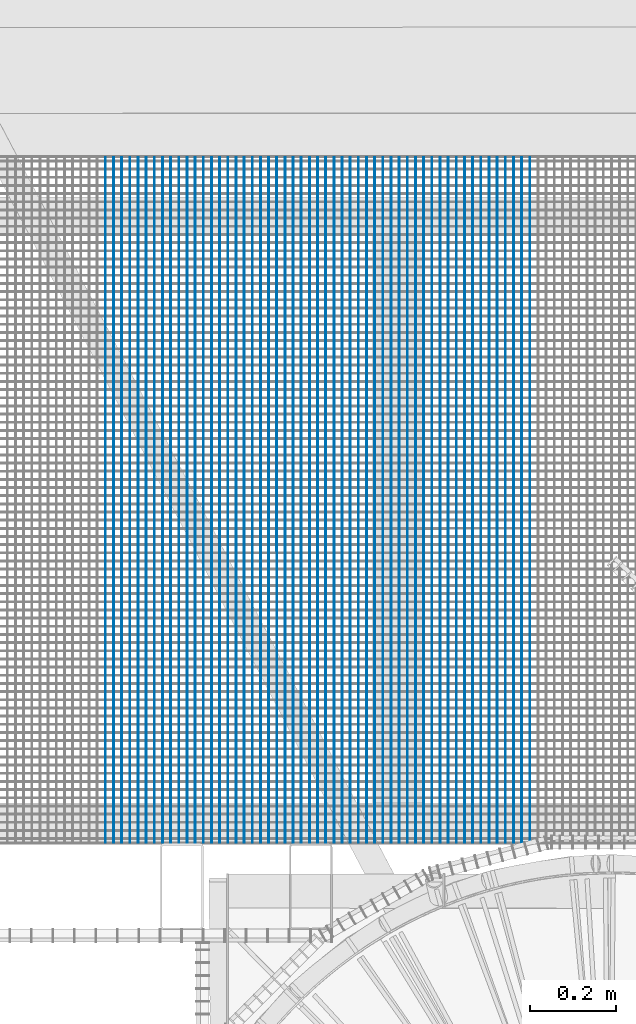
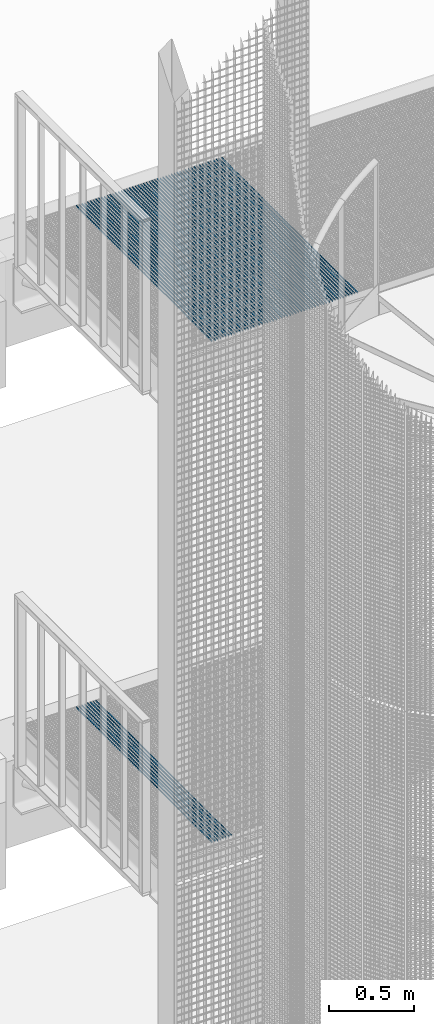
# One storey, part 94 of 1183: 61 beams, 2 elements without a shape of their own.
"""IFC2X3 building model written with IfcOpenShell, lengths in millimetres."""

from ifc_helpers import new_model, si_unit, frame, origin_with_axes, origin_2d_with_axis, place, context, subcontext, project, spatial, rectangle, extrude, material, type_object, element, aggregate, save


model = new_model("IFC2X3")

# Units and contexts
model_context = context("Model", 3, precision=1e-05, world=origin_with_axes())
body_context = subcontext(model_context, "Body", "Model", "MODEL_VIEW")
ifc_project = project(units=[si_unit("LENGTHUNIT", "METRE", prefix="MILLI"), si_unit("AREAUNIT", "SQUARE_METRE"), si_unit("VOLUMEUNIT", "CUBIC_METRE"), si_unit("MASSUNIT", "GRAM", prefix="KILO"), si_unit("TIMEUNIT", "SECOND"), si_unit("PLANEANGLEUNIT", "RADIAN"), si_unit("SOLIDANGLEUNIT", "STERADIAN"), si_unit("THERMODYNAMICTEMPERATUREUNIT", "DEGREE_CELSIUS"), si_unit("LUMINOUSINTENSITYUNIT", "LUMEN")], contexts=[model_context])

# Site, building, storey
site_placement = place(None, origin_with_axes())
site = spatial("IfcSite", under=ifc_project, at=site_placement, Name="Undefined", CompositionType="ELEMENT")
building_placement = place(site_placement, origin_with_axes())
building = spatial("IfcBuilding", under=site, at=building_placement, Name="Undefined", CompositionType="ELEMENT")
storey_placement = place(building_placement, origin_with_axes())
storey = spatial("IfcBuildingStorey", under=building, at=storey_placement, Name="Undefined", CompositionType="ELEMENT", Elevation=0.0)

# Assembly, beams
assembly_1_placement = place(storey_placement, origin_with_axes())
assembly_1 = element("IfcElementAssembly", 1, at=assembly_1_placement, inside=storey, Name="BORDURE", AssemblyPlace="NOTDEFINED", PredefinedType="NOTDEFINED")
ifc_material = material(Name="STEEL/S235JR")
beam_type = type_object("IfcBeamType", Name="PL2*10", PredefinedType="NOTDEFINED")
beam_1_placement = place(assembly_1_placement, frame((20422.1154247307, 1101.99652091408, 13685.0), z_axis=(0.0, 0.0, 1.0), x_axis=(-4.50599999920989e-06, 0.999999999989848, 0.0)))
beam_1 = element("IfcBeam", 2, at=beam_1_placement, type_object=beam_type, material=ifc_material, Name="ENTRETOISE", context=body_context, shape_type="SweptSolid", body=[
    extrude(rectangle(XDim=2.0, YDim=10.0, at=origin_2d_with_axis()), frame((1596.0000000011, -1.35186458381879e-18, -7.27595761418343e-12), z_axis=(-1.0, 0.0, 0.0), x_axis=(0.0, -1.0, 0.0)), (0.0, 0.0, 1.0), 1596.0),
])
beam_2_placement = place(assembly_1_placement, frame((20441.1154247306, 1101.99661443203, 13685.0), z_axis=(0.0, 0.0, 1.0), x_axis=(-4.50599999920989e-06, 0.999999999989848, 0.0)))
beam_2 = element("IfcBeam", 3, at=beam_2_placement, type_object=beam_type, material=ifc_material, Name="ENTRETOISE", context=body_context, shape_type="SweptSolid", body=[
    extrude(rectangle(XDim=2.0, YDim=10.0, at=origin_2d_with_axis()), frame((1596.0000000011, -1.35186458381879e-18, -7.27595761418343e-12), z_axis=(-1.0, 0.0, 0.0), x_axis=(0.0, -1.0, 0.0)), (0.0, 0.0, 1.0), 1596.0),
])
beam_3_placement = place(assembly_1_placement, frame((20460.1154247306, 1101.99670794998, 13685.0), z_axis=(0.0, 0.0, 1.0), x_axis=(-4.50599999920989e-06, 0.999999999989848, 0.0)))
beam_3 = element("IfcBeam", 4, at=beam_3_placement, type_object=beam_type, material=ifc_material, Name="ENTRETOISE", context=body_context, shape_type="SweptSolid", body=[
    extrude(rectangle(XDim=2.0, YDim=10.0, at=origin_2d_with_axis()), frame((1596.0000000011, -1.35186458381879e-18, -7.27595761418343e-12), z_axis=(-1.0, 0.0, 0.0), x_axis=(0.0, -1.0, 0.0)), (0.0, 0.0, 1.0), 1596.0),
])
beam_4_placement = place(assembly_1_placement, frame((20479.1154247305, 1101.99680146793, 13685.0), z_axis=(0.0, 0.0, 1.0), x_axis=(-4.50599999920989e-06, 0.999999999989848, 0.0)))
beam_4 = element("IfcBeam", 5, at=beam_4_placement, type_object=beam_type, material=ifc_material, Name="ENTRETOISE", context=body_context, shape_type="SweptSolid", body=[
    extrude(rectangle(XDim=2.0, YDim=10.0, at=origin_2d_with_axis()), frame((1596.0000000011, -1.35186458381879e-18, -7.27595761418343e-12), z_axis=(-1.0, 0.0, 0.0), x_axis=(0.0, -1.0, 0.0)), (0.0, 0.0, 1.0), 1596.0),
])
beam_5_placement = place(assembly_1_placement, frame((20498.1154247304, 1101.99689498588, 13685.0), z_axis=(0.0, 0.0, 1.0), x_axis=(-4.50599999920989e-06, 0.999999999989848, 0.0)))
beam_5 = element("IfcBeam", 6, at=beam_5_placement, type_object=beam_type, material=ifc_material, Name="ENTRETOISE", context=body_context, shape_type="SweptSolid", body=[
    extrude(rectangle(XDim=2.0, YDim=10.0, at=origin_2d_with_axis()), frame((1596.0000000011, -1.35186458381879e-18, -7.27595761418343e-12), z_axis=(-1.0, 0.0, 0.0), x_axis=(0.0, -1.0, 0.0)), (0.0, 0.0, 1.0), 1596.0),
])
beam_6_placement = place(assembly_1_placement, frame((20517.1154247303, 1101.99698850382, 13685.0), z_axis=(0.0, 0.0, 1.0), x_axis=(-4.50599999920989e-06, 0.999999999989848, 0.0)))
beam_6 = element("IfcBeam", 7, at=beam_6_placement, type_object=beam_type, material=ifc_material, Name="ENTRETOISE", context=body_context, shape_type="SweptSolid", body=[
    extrude(rectangle(XDim=2.0, YDim=10.0, at=origin_2d_with_axis()), frame((1596.0000000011, -1.35186458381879e-18, -7.27595761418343e-12), z_axis=(-1.0, 0.0, 0.0), x_axis=(0.0, -1.0, 0.0)), (0.0, 0.0, 1.0), 1596.0),
])
beam_7_placement = place(assembly_1_placement, frame((20536.1154247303, 1101.99708202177, 13685.0), z_axis=(0.0, 0.0, 1.0), x_axis=(-4.50599999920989e-06, 0.999999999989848, 0.0)))
beam_7 = element("IfcBeam", 8, at=beam_7_placement, type_object=beam_type, material=ifc_material, Name="ENTRETOISE", context=body_context, shape_type="SweptSolid", body=[
    extrude(rectangle(XDim=2.0, YDim=10.0, at=origin_2d_with_axis()), frame((1596.0000000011, -1.35186458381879e-18, -7.27595761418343e-12), z_axis=(-1.0, 0.0, 0.0), x_axis=(0.0, -1.0, 0.0)), (0.0, 0.0, 1.0), 1596.0),
])
beam_8_placement = place(assembly_1_placement, frame((20555.1154247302, 1101.99717553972, 13685.0), z_axis=(0.0, 0.0, 1.0), x_axis=(-4.50599999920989e-06, 0.999999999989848, 0.0)))
beam_8 = element("IfcBeam", 9, at=beam_8_placement, type_object=beam_type, material=ifc_material, Name="ENTRETOISE", context=body_context, shape_type="SweptSolid", body=[
    extrude(rectangle(XDim=2.0, YDim=10.0, at=origin_2d_with_axis()), frame((1596.0000000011, -1.35186458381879e-18, -7.27595761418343e-12), z_axis=(-1.0, 0.0, 0.0), x_axis=(0.0, -1.0, 0.0)), (0.0, 0.0, 1.0), 1596.0),
])
beam_9_placement = place(assembly_1_placement, frame((20574.1154247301, 1101.99726905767, 13685.0), z_axis=(0.0, 0.0, 1.0), x_axis=(-4.50599999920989e-06, 0.999999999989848, 0.0)))
beam_9 = element("IfcBeam", 10, at=beam_9_placement, type_object=beam_type, material=ifc_material, Name="ENTRETOISE", context=body_context, shape_type="SweptSolid", body=[
    extrude(rectangle(XDim=2.0, YDim=10.0, at=origin_2d_with_axis()), frame((1596.0000000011, -1.35186458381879e-18, -7.27595761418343e-12), z_axis=(-1.0, 0.0, 0.0), x_axis=(0.0, -1.0, 0.0)), (0.0, 0.0, 1.0), 1596.0),
])
beam_10_placement = place(assembly_1_placement, frame((20593.1154247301, 1101.99736257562, 13685.0), z_axis=(0.0, 0.0, 1.0), x_axis=(-4.50599999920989e-06, 0.999999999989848, 0.0)))
beam_10 = element("IfcBeam", 11, at=beam_10_placement, type_object=beam_type, material=ifc_material, Name="ENTRETOISE", context=body_context, shape_type="SweptSolid", body=[
    extrude(rectangle(XDim=2.0, YDim=10.0, at=origin_2d_with_axis()), frame((1596.0000000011, -1.35186458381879e-18, -7.27595761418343e-12), z_axis=(-1.0, 0.0, 0.0), x_axis=(0.0, -1.0, 0.0)), (0.0, 0.0, 1.0), 1596.0),
])
beam_11_placement = place(assembly_1_placement, frame((20612.11542473, 1101.99745609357, 13685.0), z_axis=(0.0, 0.0, 1.0), x_axis=(-4.50599999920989e-06, 0.999999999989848, 0.0)))
beam_11 = element("IfcBeam", 12, at=beam_11_placement, type_object=beam_type, material=ifc_material, Name="ENTRETOISE", context=body_context, shape_type="SweptSolid", body=[
    extrude(rectangle(XDim=2.0, YDim=10.0, at=origin_2d_with_axis()), frame((1596.0000000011, -1.35186458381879e-18, -7.27595761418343e-12), z_axis=(-1.0, 0.0, 0.0), x_axis=(0.0, -1.0, 0.0)), (0.0, 0.0, 1.0), 1596.0),
])
beam_12_placement = place(assembly_1_placement, frame((20631.1154247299, 1101.99754961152, 13685.0), z_axis=(0.0, 0.0, 1.0), x_axis=(-4.50599999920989e-06, 0.999999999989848, 0.0)))
beam_12 = element("IfcBeam", 13, at=beam_12_placement, type_object=beam_type, material=ifc_material, Name="ENTRETOISE", context=body_context, shape_type="SweptSolid", body=[
    extrude(rectangle(XDim=2.0, YDim=10.0, at=origin_2d_with_axis()), frame((1596.0000000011, -1.35186458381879e-18, -7.27595761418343e-12), z_axis=(-1.0, 0.0, 0.0), x_axis=(0.0, -1.0, 0.0)), (0.0, 0.0, 1.0), 1596.0),
])
beam_13_placement = place(assembly_1_placement, frame((20650.1154247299, 1101.99764312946, 13685.0), z_axis=(0.0, 0.0, 1.0), x_axis=(-4.50599999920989e-06, 0.999999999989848, 0.0)))
beam_13 = element("IfcBeam", 14, at=beam_13_placement, type_object=beam_type, material=ifc_material, Name="ENTRETOISE", context=body_context, shape_type="SweptSolid", body=[
    extrude(rectangle(XDim=2.0, YDim=10.0, at=origin_2d_with_axis()), frame((1596.0000000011, -1.35186458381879e-18, -7.27595761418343e-12), z_axis=(-1.0, 0.0, 0.0), x_axis=(0.0, -1.0, 0.0)), (0.0, 0.0, 1.0), 1596.0),
])
beam_14_placement = place(assembly_1_placement, frame((20669.1154247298, 1101.99773664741, 13685.0), z_axis=(0.0, 0.0, 1.0), x_axis=(-4.50599999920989e-06, 0.999999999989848, 0.0)))
beam_14 = element("IfcBeam", 15, at=beam_14_placement, type_object=beam_type, material=ifc_material, Name="ENTRETOISE", context=body_context, shape_type="SweptSolid", body=[
    extrude(rectangle(XDim=2.0, YDim=10.0, at=origin_2d_with_axis()), frame((1596.0000000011, -1.35186458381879e-18, -7.27595761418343e-12), z_axis=(-1.0, 0.0, 0.0), x_axis=(0.0, -1.0, 0.0)), (0.0, 0.0, 1.0), 1596.0),
])
beam_15_placement = place(assembly_1_placement, frame((20688.1154247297, 1101.99783016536, 13685.0), z_axis=(0.0, 0.0, 1.0), x_axis=(-4.50599999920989e-06, 0.999999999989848, 0.0)))
beam_15 = element("IfcBeam", 16, at=beam_15_placement, type_object=beam_type, material=ifc_material, Name="ENTRETOISE", context=body_context, shape_type="SweptSolid", body=[
    extrude(rectangle(XDim=2.0, YDim=10.0, at=origin_2d_with_axis()), frame((1596.0000000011, -1.35186458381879e-18, -7.27595761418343e-12), z_axis=(-1.0, 0.0, 0.0), x_axis=(0.0, -1.0, 0.0)), (0.0, 0.0, 1.0), 1596.0),
])
beam_16_placement = place(assembly_1_placement, frame((20707.1154247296, 1101.99792368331, 13685.0), z_axis=(0.0, 0.0, 1.0), x_axis=(-4.50599999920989e-06, 0.999999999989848, 0.0)))
beam_16 = element("IfcBeam", 17, at=beam_16_placement, type_object=beam_type, material=ifc_material, Name="ENTRETOISE", context=body_context, shape_type="SweptSolid", body=[
    extrude(rectangle(XDim=2.0, YDim=10.0, at=origin_2d_with_axis()), frame((1596.0000000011, -1.35186458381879e-18, -7.27595761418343e-12), z_axis=(-1.0, 0.0, 0.0), x_axis=(0.0, -1.0, 0.0)), (0.0, 0.0, 1.0), 1596.0),
])
beam_17_placement = place(assembly_1_placement, frame((20726.1154247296, 1101.99801720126, 13685.0), z_axis=(0.0, 0.0, 1.0), x_axis=(-4.50599999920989e-06, 0.999999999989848, 0.0)))
beam_17 = element("IfcBeam", 18, at=beam_17_placement, type_object=beam_type, material=ifc_material, Name="ENTRETOISE", context=body_context, shape_type="SweptSolid", body=[
    extrude(rectangle(XDim=2.0, YDim=10.0, at=origin_2d_with_axis()), frame((1596.0000000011, -1.35186458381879e-18, -7.27595761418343e-12), z_axis=(-1.0, 0.0, 0.0), x_axis=(0.0, -1.0, 0.0)), (0.0, 0.0, 1.0), 1596.0),
])
beam_18_placement = place(assembly_1_placement, frame((20745.1154247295, 1101.99811071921, 13685.0), z_axis=(0.0, 0.0, 1.0), x_axis=(-4.50599999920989e-06, 0.999999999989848, 0.0)))
beam_18 = element("IfcBeam", 19, at=beam_18_placement, type_object=beam_type, material=ifc_material, Name="ENTRETOISE", context=body_context, shape_type="SweptSolid", body=[
    extrude(rectangle(XDim=2.0, YDim=10.0, at=origin_2d_with_axis()), frame((1596.0000000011, -1.35186458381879e-18, -7.27595761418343e-12), z_axis=(-1.0, 0.0, 0.0), x_axis=(0.0, -1.0, 0.0)), (0.0, 0.0, 1.0), 1596.0),
])
beam_19_placement = place(assembly_1_placement, frame((20764.1154247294, 1101.99820423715, 13685.0), z_axis=(0.0, 0.0, 1.0), x_axis=(-4.50599999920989e-06, 0.999999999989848, 0.0)))
beam_19 = element("IfcBeam", 20, at=beam_19_placement, type_object=beam_type, material=ifc_material, Name="ENTRETOISE", context=body_context, shape_type="SweptSolid", body=[
    extrude(rectangle(XDim=2.0, YDim=10.0, at=origin_2d_with_axis()), frame((1596.0000000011, -1.35186458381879e-18, -7.27595761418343e-12), z_axis=(-1.0, 0.0, 0.0), x_axis=(0.0, -1.0, 0.0)), (0.0, 0.0, 1.0), 1596.0),
])
beam_20_placement = place(assembly_1_placement, frame((20783.1154247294, 1101.9982977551, 13685.0), z_axis=(0.0, 0.0, 1.0), x_axis=(-4.50599999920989e-06, 0.999999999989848, 0.0)))
beam_20 = element("IfcBeam", 21, at=beam_20_placement, type_object=beam_type, material=ifc_material, Name="ENTRETOISE", context=body_context, shape_type="SweptSolid", body=[
    extrude(rectangle(XDim=2.0, YDim=10.0, at=origin_2d_with_axis()), frame((1596.0000000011, -1.35186458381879e-18, -7.27595761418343e-12), z_axis=(-1.0, 0.0, 0.0), x_axis=(0.0, -1.0, 0.0)), (0.0, 0.0, 1.0), 1596.0),
])
beam_21_placement = place(assembly_1_placement, frame((20802.1154247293, 1101.99839127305, 13685.0), z_axis=(0.0, 0.0, 1.0), x_axis=(-4.50599999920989e-06, 0.999999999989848, 0.0)))
beam_21 = element("IfcBeam", 22, at=beam_21_placement, type_object=beam_type, material=ifc_material, Name="ENTRETOISE", context=body_context, shape_type="SweptSolid", body=[
    extrude(rectangle(XDim=2.0, YDim=10.0, at=origin_2d_with_axis()), frame((1596.0000000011, -1.35186458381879e-18, -7.27595761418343e-12), z_axis=(-1.0, 0.0, 0.0), x_axis=(0.0, -1.0, 0.0)), (0.0, 0.0, 1.0), 1596.0),
])
beam_22_placement = place(assembly_1_placement, frame((20821.1154247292, 1101.998484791, 13685.0), z_axis=(0.0, 0.0, 1.0), x_axis=(-4.50599999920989e-06, 0.999999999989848, 0.0)))
beam_22 = element("IfcBeam", 23, at=beam_22_placement, type_object=beam_type, material=ifc_material, Name="ENTRETOISE", context=body_context, shape_type="SweptSolid", body=[
    extrude(rectangle(XDim=2.0, YDim=10.0, at=origin_2d_with_axis()), frame((1596.0000000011, -1.35186458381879e-18, -7.27595761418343e-12), z_axis=(-1.0, 0.0, 0.0), x_axis=(0.0, -1.0, 0.0)), (0.0, 0.0, 1.0), 1596.0),
])
beam_23_placement = place(assembly_1_placement, frame((20840.1154247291, 1101.99857830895, 13685.0), z_axis=(0.0, 0.0, 1.0), x_axis=(-4.50599999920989e-06, 0.999999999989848, 0.0)))
beam_23 = element("IfcBeam", 24, at=beam_23_placement, type_object=beam_type, material=ifc_material, Name="ENTRETOISE", context=body_context, shape_type="SweptSolid", body=[
    extrude(rectangle(XDim=2.0, YDim=10.0, at=origin_2d_with_axis()), frame((1596.0000000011, -1.35186458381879e-18, -7.27595761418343e-12), z_axis=(-1.0, 0.0, 0.0), x_axis=(0.0, -1.0, 0.0)), (0.0, 0.0, 1.0), 1596.0),
])
beam_24_placement = place(assembly_1_placement, frame((20859.1154247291, 1101.9986718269, 13685.0), z_axis=(0.0, 0.0, 1.0), x_axis=(-4.50599999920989e-06, 0.999999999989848, 0.0)))
beam_24 = element("IfcBeam", 25, at=beam_24_placement, type_object=beam_type, material=ifc_material, Name="ENTRETOISE", context=body_context, shape_type="SweptSolid", body=[
    extrude(rectangle(XDim=2.0, YDim=10.0, at=origin_2d_with_axis()), frame((1596.0000000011, -1.35186458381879e-18, -7.27595761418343e-12), z_axis=(-1.0, 0.0, 0.0), x_axis=(0.0, -1.0, 0.0)), (0.0, 0.0, 1.0), 1596.0),
])
beam_25_placement = place(assembly_1_placement, frame((20878.115424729, 1101.99876534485, 13685.0), z_axis=(0.0, 0.0, 1.0), x_axis=(-4.50599999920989e-06, 0.999999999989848, 0.0)))
beam_25 = element("IfcBeam", 26, at=beam_25_placement, type_object=beam_type, material=ifc_material, Name="ENTRETOISE", context=body_context, shape_type="SweptSolid", body=[
    extrude(rectangle(XDim=2.0, YDim=10.0, at=origin_2d_with_axis()), frame((1596.0000000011, -1.35186458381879e-18, -7.27595761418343e-12), z_axis=(-1.0, 0.0, 0.0), x_axis=(0.0, -1.0, 0.0)), (0.0, 0.0, 1.0), 1596.0),
])
beam_26_placement = place(assembly_1_placement, frame((20897.1154247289, 1101.99885886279, 13685.0), z_axis=(0.0, 0.0, 1.0), x_axis=(-4.50599999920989e-06, 0.999999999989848, 0.0)))
beam_26 = element("IfcBeam", 27, at=beam_26_placement, type_object=beam_type, material=ifc_material, Name="ENTRETOISE", context=body_context, shape_type="SweptSolid", body=[
    extrude(rectangle(XDim=2.0, YDim=10.0, at=origin_2d_with_axis()), frame((1596.0000000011, -1.35186458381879e-18, -7.27595761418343e-12), z_axis=(-1.0, 0.0, 0.0), x_axis=(0.0, -1.0, 0.0)), (0.0, 0.0, 1.0), 1596.0),
])
beam_27_placement = place(assembly_1_placement, frame((20916.1154247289, 1101.99895238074, 13685.0), z_axis=(0.0, 0.0, 1.0), x_axis=(-4.50599999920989e-06, 0.999999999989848, 0.0)))
beam_27 = element("IfcBeam", 28, at=beam_27_placement, type_object=beam_type, material=ifc_material, Name="ENTRETOISE", context=body_context, shape_type="SweptSolid", body=[
    extrude(rectangle(XDim=2.0, YDim=10.0, at=origin_2d_with_axis()), frame((1596.0000000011, -1.35186458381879e-18, -7.27595761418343e-12), z_axis=(-1.0, 0.0, 0.0), x_axis=(0.0, -1.0, 0.0)), (0.0, 0.0, 1.0), 1596.0),
])
beam_28_placement = place(assembly_1_placement, frame((20935.1154247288, 1101.99904589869, 13685.0), z_axis=(0.0, 0.0, 1.0), x_axis=(-4.50599999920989e-06, 0.999999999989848, 0.0)))
beam_28 = element("IfcBeam", 29, at=beam_28_placement, type_object=beam_type, material=ifc_material, Name="ENTRETOISE", context=body_context, shape_type="SweptSolid", body=[
    extrude(rectangle(XDim=2.0, YDim=10.0, at=origin_2d_with_axis()), frame((1596.0000000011, -1.35186458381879e-18, -7.27595761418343e-12), z_axis=(-1.0, 0.0, 0.0), x_axis=(0.0, -1.0, 0.0)), (0.0, 0.0, 1.0), 1596.0),
])
beam_29_placement = place(assembly_1_placement, frame((20954.1154247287, 1101.99913941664, 13685.0), z_axis=(0.0, 0.0, 1.0), x_axis=(-4.50599999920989e-06, 0.999999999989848, 0.0)))
beam_29 = element("IfcBeam", 30, at=beam_29_placement, type_object=beam_type, material=ifc_material, Name="ENTRETOISE", context=body_context, shape_type="SweptSolid", body=[
    extrude(rectangle(XDim=2.0, YDim=10.0, at=origin_2d_with_axis()), frame((1596.0000000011, -1.35186458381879e-18, -7.27595761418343e-12), z_axis=(-1.0, 0.0, 0.0), x_axis=(0.0, -1.0, 0.0)), (0.0, 0.0, 1.0), 1596.0),
])
beam_30_placement = place(assembly_1_placement, frame((20973.1154247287, 1101.99923293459, 13685.0), z_axis=(0.0, 0.0, 1.0), x_axis=(-4.50599999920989e-06, 0.999999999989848, 0.0)))
beam_30 = element("IfcBeam", 31, at=beam_30_placement, type_object=beam_type, material=ifc_material, Name="ENTRETOISE", context=body_context, shape_type="SweptSolid", body=[
    extrude(rectangle(XDim=2.0, YDim=10.0, at=origin_2d_with_axis()), frame((1596.0000000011, -1.35186458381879e-18, -7.27595761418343e-12), z_axis=(-1.0, 0.0, 0.0), x_axis=(0.0, -1.0, 0.0)), (0.0, 0.0, 1.0), 1596.0),
])
beam_31_placement = place(assembly_1_placement, frame((20992.1154247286, 1101.99932645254, 13685.0), z_axis=(0.0, 0.0, 1.0), x_axis=(-4.50599999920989e-06, 0.999999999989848, 0.0)))
beam_31 = element("IfcBeam", 32, at=beam_31_placement, type_object=beam_type, material=ifc_material, Name="ENTRETOISE", context=body_context, shape_type="SweptSolid", body=[
    extrude(rectangle(XDim=2.0, YDim=10.0, at=origin_2d_with_axis()), frame((1596.0000000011, -1.35186458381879e-18, -7.27595761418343e-12), z_axis=(-1.0, 0.0, 0.0), x_axis=(0.0, -1.0, 0.0)), (0.0, 0.0, 1.0), 1596.0),
])
beam_32_placement = place(assembly_1_placement, frame((21011.1154247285, 1101.99941997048, 13685.0), z_axis=(0.0, 0.0, 1.0), x_axis=(-4.50599999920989e-06, 0.999999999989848, 0.0)))
beam_32 = element("IfcBeam", 33, at=beam_32_placement, type_object=beam_type, material=ifc_material, Name="ENTRETOISE", context=body_context, shape_type="SweptSolid", body=[
    extrude(rectangle(XDim=2.0, YDim=10.0, at=origin_2d_with_axis()), frame((1596.0000000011, -1.35186458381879e-18, -7.27595761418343e-12), z_axis=(-1.0, 0.0, 0.0), x_axis=(0.0, -1.0, 0.0)), (0.0, 0.0, 1.0), 1596.0),
])
beam_33_placement = place(assembly_1_placement, frame((21030.1154247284, 1101.99951348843, 13685.0), z_axis=(0.0, 0.0, 1.0), x_axis=(-4.50599999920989e-06, 0.999999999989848, 0.0)))
beam_33 = element("IfcBeam", 34, at=beam_33_placement, type_object=beam_type, material=ifc_material, Name="ENTRETOISE", context=body_context, shape_type="SweptSolid", body=[
    extrude(rectangle(XDim=2.0, YDim=10.0, at=origin_2d_with_axis()), frame((1596.0000000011, -1.35186458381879e-18, -7.27595761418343e-12), z_axis=(-1.0, 0.0, 0.0), x_axis=(0.0, -1.0, 0.0)), (0.0, 0.0, 1.0), 1596.0),
])
beam_34_placement = place(assembly_1_placement, frame((21049.1154247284, 1101.99960700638, 13685.0), z_axis=(0.0, 0.0, 1.0), x_axis=(-4.50599999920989e-06, 0.999999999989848, 0.0)))
beam_34 = element("IfcBeam", 35, at=beam_34_placement, type_object=beam_type, material=ifc_material, Name="ENTRETOISE", context=body_context, shape_type="SweptSolid", body=[
    extrude(rectangle(XDim=2.0, YDim=10.0, at=origin_2d_with_axis()), frame((1596.0000000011, -1.35186458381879e-18, -7.27595761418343e-12), z_axis=(-1.0, 0.0, 0.0), x_axis=(0.0, -1.0, 0.0)), (0.0, 0.0, 1.0), 1596.0),
])
beam_35_placement = place(assembly_1_placement, frame((21068.1154247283, 1101.99970052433, 13685.0), z_axis=(0.0, 0.0, 1.0), x_axis=(-4.50599999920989e-06, 0.999999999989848, 0.0)))
beam_35 = element("IfcBeam", 36, at=beam_35_placement, type_object=beam_type, material=ifc_material, Name="ENTRETOISE", context=body_context, shape_type="SweptSolid", body=[
    extrude(rectangle(XDim=2.0, YDim=10.0, at=origin_2d_with_axis()), frame((1596.0000000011, -1.35186458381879e-18, -7.27595761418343e-12), z_axis=(-1.0, 0.0, 0.0), x_axis=(0.0, -1.0, 0.0)), (0.0, 0.0, 1.0), 1596.0),
])
beam_36_placement = place(assembly_1_placement, frame((21087.1154247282, 1101.99979404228, 13685.0), z_axis=(0.0, 0.0, 1.0), x_axis=(-4.50599999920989e-06, 0.999999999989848, 0.0)))
beam_36 = element("IfcBeam", 37, at=beam_36_placement, type_object=beam_type, material=ifc_material, Name="ENTRETOISE", context=body_context, shape_type="SweptSolid", body=[
    extrude(rectangle(XDim=2.0, YDim=10.0, at=origin_2d_with_axis()), frame((1596.0000000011, -1.35186458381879e-18, -7.27595761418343e-12), z_axis=(-1.0, 0.0, 0.0), x_axis=(0.0, -1.0, 0.0)), (0.0, 0.0, 1.0), 1596.0),
])
beam_37_placement = place(assembly_1_placement, frame((21106.1154247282, 1101.99988756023, 13685.0), z_axis=(0.0, 0.0, 1.0), x_axis=(-4.50599999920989e-06, 0.999999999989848, 0.0)))
beam_37 = element("IfcBeam", 38, at=beam_37_placement, type_object=beam_type, material=ifc_material, Name="ENTRETOISE", context=body_context, shape_type="SweptSolid", body=[
    extrude(rectangle(XDim=2.0, YDim=10.0, at=origin_2d_with_axis()), frame((1596.0000000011, -1.35186458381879e-18, -7.27595761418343e-12), z_axis=(-1.0, 0.0, 0.0), x_axis=(0.0, -1.0, 0.0)), (0.0, 0.0, 1.0), 1596.0),
])
beam_38_placement = place(assembly_1_placement, frame((21125.1154247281, 1101.99998107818, 13685.0), z_axis=(0.0, 0.0, 1.0), x_axis=(-4.50599999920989e-06, 0.999999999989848, 0.0)))
beam_38 = element("IfcBeam", 39, at=beam_38_placement, type_object=beam_type, material=ifc_material, Name="ENTRETOISE", context=body_context, shape_type="SweptSolid", body=[
    extrude(rectangle(XDim=2.0, YDim=10.0, at=origin_2d_with_axis()), frame((1596.0000000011, -1.35186458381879e-18, -7.27595761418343e-12), z_axis=(-1.0, 0.0, 0.0), x_axis=(0.0, -1.0, 0.0)), (0.0, 0.0, 1.0), 1596.0),
])
beam_39_placement = place(assembly_1_placement, frame((21144.115424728, 1102.00007459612, 13685.0), z_axis=(0.0, 0.0, 1.0), x_axis=(-4.50599999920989e-06, 0.999999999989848, 0.0)))
beam_39 = element("IfcBeam", 40, at=beam_39_placement, type_object=beam_type, material=ifc_material, Name="ENTRETOISE", context=body_context, shape_type="SweptSolid", body=[
    extrude(rectangle(XDim=2.0, YDim=10.0, at=origin_2d_with_axis()), frame((1596.0000000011, -1.35186458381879e-18, -7.27595761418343e-12), z_axis=(-1.0, 0.0, 0.0), x_axis=(0.0, -1.0, 0.0)), (0.0, 0.0, 1.0), 1596.0),
])
beam_40_placement = place(assembly_1_placement, frame((21163.1154247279, 1102.00016811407, 13685.0), z_axis=(0.0, 0.0, 1.0), x_axis=(-4.50599999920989e-06, 0.999999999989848, 0.0)))
beam_40 = element("IfcBeam", 41, at=beam_40_placement, type_object=beam_type, material=ifc_material, Name="ENTRETOISE", context=body_context, shape_type="SweptSolid", body=[
    extrude(rectangle(XDim=2.0, YDim=10.0, at=origin_2d_with_axis()), frame((1596.0000000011, -1.35186458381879e-18, -7.27595761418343e-12), z_axis=(-1.0, 0.0, 0.0), x_axis=(0.0, -1.0, 0.0)), (0.0, 0.0, 1.0), 1596.0),
])
beam_41_placement = place(assembly_1_placement, frame((21182.1154247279, 1102.00026163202, 13685.0), z_axis=(0.0, 0.0, 1.0), x_axis=(-4.50599999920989e-06, 0.999999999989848, 0.0)))
beam_41 = element("IfcBeam", 42, at=beam_41_placement, type_object=beam_type, material=ifc_material, Name="ENTRETOISE", context=body_context, shape_type="SweptSolid", body=[
    extrude(rectangle(XDim=2.0, YDim=10.0, at=origin_2d_with_axis()), frame((1596.0000000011, -1.35186458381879e-18, -7.27595761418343e-12), z_axis=(-1.0, 0.0, 0.0), x_axis=(0.0, -1.0, 0.0)), (0.0, 0.0, 1.0), 1596.0),
])
beam_42_placement = place(assembly_1_placement, frame((21201.1154247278, 1102.00035514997, 13685.0), z_axis=(0.0, 0.0, 1.0), x_axis=(-4.50599999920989e-06, 0.999999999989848, 0.0)))
beam_42 = element("IfcBeam", 43, at=beam_42_placement, type_object=beam_type, material=ifc_material, Name="ENTRETOISE", context=body_context, shape_type="SweptSolid", body=[
    extrude(rectangle(XDim=2.0, YDim=10.0, at=origin_2d_with_axis()), frame((1596.0000000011, -1.35186458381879e-18, -7.27595761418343e-12), z_axis=(-1.0, 0.0, 0.0), x_axis=(0.0, -1.0, 0.0)), (0.0, 0.0, 1.0), 1596.0),
])
beam_43_placement = place(assembly_1_placement, frame((21220.1154247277, 1102.00044866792, 13685.0), z_axis=(0.0, 0.0, 1.0), x_axis=(-4.50599999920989e-06, 0.999999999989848, 0.0)))
beam_43 = element("IfcBeam", 44, at=beam_43_placement, type_object=beam_type, material=ifc_material, Name="ENTRETOISE", context=body_context, shape_type="SweptSolid", body=[
    extrude(rectangle(XDim=2.0, YDim=10.0, at=origin_2d_with_axis()), frame((1596.0000000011, -1.35186458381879e-18, -7.27595761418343e-12), z_axis=(-1.0, 0.0, 0.0), x_axis=(0.0, -1.0, 0.0)), (0.0, 0.0, 1.0), 1596.0),
])
beam_44_placement = place(assembly_1_placement, frame((21239.1154247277, 1102.00054218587, 13685.0), z_axis=(0.0, 0.0, 1.0), x_axis=(-4.50599999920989e-06, 0.999999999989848, 0.0)))
beam_44 = element("IfcBeam", 45, at=beam_44_placement, type_object=beam_type, material=ifc_material, Name="ENTRETOISE", context=body_context, shape_type="SweptSolid", body=[
    extrude(rectangle(XDim=2.0, YDim=10.0, at=origin_2d_with_axis()), frame((1596.0000000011, -1.35186458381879e-18, -7.27595761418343e-12), z_axis=(-1.0, 0.0, 0.0), x_axis=(0.0, -1.0, 0.0)), (0.0, 0.0, 1.0), 1596.0),
])
beam_45_placement = place(assembly_1_placement, frame((21258.1154247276, 1102.00063570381, 13685.0), z_axis=(0.0, 0.0, 1.0), x_axis=(-4.50599999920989e-06, 0.999999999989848, 0.0)))
beam_45 = element("IfcBeam", 46, at=beam_45_placement, type_object=beam_type, material=ifc_material, Name="ENTRETOISE", context=body_context, shape_type="SweptSolid", body=[
    extrude(rectangle(XDim=2.0, YDim=10.0, at=origin_2d_with_axis()), frame((1596.0000000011, -1.35186458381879e-18, -7.27595761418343e-12), z_axis=(-1.0, 0.0, 0.0), x_axis=(0.0, -1.0, 0.0)), (0.0, 0.0, 1.0), 1596.0),
])
beam_46_placement = place(assembly_1_placement, frame((21277.1154247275, 1102.00072922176, 13685.0), z_axis=(0.0, 0.0, 1.0), x_axis=(-4.50599999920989e-06, 0.999999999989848, 0.0)))
beam_46 = element("IfcBeam", 47, at=beam_46_placement, type_object=beam_type, material=ifc_material, Name="ENTRETOISE", context=body_context, shape_type="SweptSolid", body=[
    extrude(rectangle(XDim=2.0, YDim=10.0, at=origin_2d_with_axis()), frame((1596.0000000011, -1.35186458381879e-18, -7.27595761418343e-12), z_axis=(-1.0, 0.0, 0.0), x_axis=(0.0, -1.0, 0.0)), (0.0, 0.0, 1.0), 1596.0),
])
beam_47_placement = place(assembly_1_placement, frame((21296.1154247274, 1102.00082273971, 13685.0), z_axis=(0.0, 0.0, 1.0), x_axis=(-4.50599999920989e-06, 0.999999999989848, 0.0)))
beam_47 = element("IfcBeam", 48, at=beam_47_placement, type_object=beam_type, material=ifc_material, Name="ENTRETOISE", context=body_context, shape_type="SweptSolid", body=[
    extrude(rectangle(XDim=2.0, YDim=10.0, at=origin_2d_with_axis()), frame((1596.0000000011, -1.35186458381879e-18, -7.27595761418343e-12), z_axis=(-1.0, 0.0, 0.0), x_axis=(0.0, -1.0, 0.0)), (0.0, 0.0, 1.0), 1596.0),
])
beam_48_placement = place(assembly_1_placement, frame((21315.1154247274, 1102.00091625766, 13685.0), z_axis=(0.0, 0.0, 1.0), x_axis=(-4.50599999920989e-06, 0.999999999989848, 0.0)))
beam_48 = element("IfcBeam", 49, at=beam_48_placement, type_object=beam_type, material=ifc_material, Name="ENTRETOISE", context=body_context, shape_type="SweptSolid", body=[
    extrude(rectangle(XDim=2.0, YDim=10.0, at=origin_2d_with_axis()), frame((1596.0000000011, -1.35186458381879e-18, -7.27595761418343e-12), z_axis=(-1.0, 0.0, 0.0), x_axis=(0.0, -1.0, 0.0)), (0.0, 0.0, 1.0), 1596.0),
])
beam_49_placement = place(assembly_1_placement, frame((21334.1154247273, 1102.00100977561, 13685.0), z_axis=(0.0, 0.0, 1.0), x_axis=(-4.50599999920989e-06, 0.999999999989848, 0.0)))
beam_49 = element("IfcBeam", 50, at=beam_49_placement, type_object=beam_type, material=ifc_material, Name="ENTRETOISE", context=body_context, shape_type="SweptSolid", body=[
    extrude(rectangle(XDim=2.0, YDim=10.0, at=origin_2d_with_axis()), frame((1596.0000000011, -1.35186458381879e-18, -7.27595761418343e-12), z_axis=(-1.0, 0.0, 0.0), x_axis=(0.0, -1.0, 0.0)), (0.0, 0.0, 1.0), 1596.0),
])
beam_50_placement = place(assembly_1_placement, frame((21353.1154247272, 1102.00110329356, 13685.0), z_axis=(0.0, 0.0, 1.0), x_axis=(-4.50599999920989e-06, 0.999999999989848, 0.0)))
beam_50 = element("IfcBeam", 51, at=beam_50_placement, type_object=beam_type, material=ifc_material, Name="ENTRETOISE", context=body_context, shape_type="SweptSolid", body=[
    extrude(rectangle(XDim=2.0, YDim=10.0, at=origin_2d_with_axis()), frame((1596.0000000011, -1.35186458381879e-18, -7.27595761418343e-12), z_axis=(-1.0, 0.0, 0.0), x_axis=(0.0, -1.0, 0.0)), (0.0, 0.0, 1.0), 1596.0),
])
beam_51_placement = place(assembly_1_placement, frame((21372.1154247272, 1102.00119681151, 13685.0), z_axis=(0.0, 0.0, 1.0), x_axis=(-4.50599999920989e-06, 0.999999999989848, 0.0)))
beam_51 = element("IfcBeam", 52, at=beam_51_placement, type_object=beam_type, material=ifc_material, Name="ENTRETOISE", context=body_context, shape_type="SweptSolid", body=[
    extrude(rectangle(XDim=2.0, YDim=10.0, at=origin_2d_with_axis()), frame((1596.0000000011, -1.35186458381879e-18, -7.27595761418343e-12), z_axis=(-1.0, 0.0, 0.0), x_axis=(0.0, -1.0, 0.0)), (0.0, 0.0, 1.0), 1596.0),
])
beam_52_placement = place(assembly_1_placement, frame((21391.1154247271, 1102.00129032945, 13685.0), z_axis=(0.0, 0.0, 1.0), x_axis=(-4.50599999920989e-06, 0.999999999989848, 0.0)))
beam_52 = element("IfcBeam", 53, at=beam_52_placement, type_object=beam_type, material=ifc_material, Name="ENTRETOISE", context=body_context, shape_type="SweptSolid", body=[
    extrude(rectangle(XDim=2.0, YDim=10.0, at=origin_2d_with_axis()), frame((1596.0000000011, -1.35186458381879e-18, -7.27595761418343e-12), z_axis=(-1.0, 0.0, 0.0), x_axis=(0.0, -1.0, 0.0)), (0.0, 0.0, 1.0), 1596.0),
])
beam_53_placement = place(assembly_1_placement, frame((21410.115424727, 1102.0013838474, 13685.0), z_axis=(0.0, 0.0, 1.0), x_axis=(-4.50599999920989e-06, 0.999999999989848, 0.0)))
beam_53 = element("IfcBeam", 54, at=beam_53_placement, type_object=beam_type, material=ifc_material, Name="ENTRETOISE", context=body_context, shape_type="SweptSolid", body=[
    extrude(rectangle(XDim=2.0, YDim=10.0, at=origin_2d_with_axis()), frame((1596.0000000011, -1.35186458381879e-18, -7.27595761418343e-12), z_axis=(-1.0, 0.0, 0.0), x_axis=(0.0, -1.0, 0.0)), (0.0, 0.0, 1.0), 1596.0),
])
aggregate(assembly_1, [beam_1, beam_2, beam_3, beam_4, beam_5, beam_6, beam_7, beam_8, beam_9, beam_10, beam_11, beam_12, beam_13, beam_14, beam_15, beam_16, beam_17, beam_18, beam_19, beam_20, beam_21, beam_22, beam_23, beam_24, beam_25, beam_26, beam_27, beam_28, beam_29, beam_30, beam_31, beam_32, beam_33, beam_34, beam_35, beam_36, beam_37, beam_38, beam_39, beam_40, beam_41, beam_42, beam_43, beam_44, beam_45, beam_46, beam_47, beam_48, beam_49, beam_50, beam_51, beam_52, beam_53])

assembly_2_placement = place(storey_placement, origin_with_axes())
assembly_2 = element("IfcElementAssembly", 55, at=assembly_2_placement, inside=storey, Name="BORDURE", AssemblyPlace="NOTDEFINED", PredefinedType="NOTDEFINED")
beam_54_placement = place(assembly_2_placement, frame((20422.1154247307, 1101.99652091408, 10085.0), z_axis=(0.0, 0.0, 1.0), x_axis=(-4.50599999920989e-06, 0.999999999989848, 0.0)))
beam_54 = element("IfcBeam", 56, at=beam_54_placement, type_object=beam_type, material=ifc_material, Name="ENTRETOISE", context=body_context, shape_type="SweptSolid", body=[
    extrude(rectangle(XDim=2.0, YDim=10.0, at=origin_2d_with_axis()), frame((1596.0000000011, -1.35186458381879e-18, -7.27595761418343e-12), z_axis=(-1.0, 0.0, 0.0), x_axis=(0.0, -1.0, 0.0)), (0.0, 0.0, 1.0), 1596.0),
])
beam_55_placement = place(assembly_2_placement, frame((20441.1154247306, 1101.99661443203, 10085.0), z_axis=(0.0, 0.0, 1.0), x_axis=(-4.50599999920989e-06, 0.999999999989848, 0.0)))
beam_55 = element("IfcBeam", 57, at=beam_55_placement, type_object=beam_type, material=ifc_material, Name="ENTRETOISE", context=body_context, shape_type="SweptSolid", body=[
    extrude(rectangle(XDim=2.0, YDim=10.0, at=origin_2d_with_axis()), frame((1596.0000000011, -1.35186458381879e-18, -7.27595761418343e-12), z_axis=(-1.0, 0.0, 0.0), x_axis=(0.0, -1.0, 0.0)), (0.0, 0.0, 1.0), 1596.0),
])
beam_56_placement = place(assembly_2_placement, frame((20460.1154247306, 1101.99670794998, 10085.0), z_axis=(0.0, 0.0, 1.0), x_axis=(-4.50599999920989e-06, 0.999999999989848, 0.0)))
beam_56 = element("IfcBeam", 58, at=beam_56_placement, type_object=beam_type, material=ifc_material, Name="ENTRETOISE", context=body_context, shape_type="SweptSolid", body=[
    extrude(rectangle(XDim=2.0, YDim=10.0, at=origin_2d_with_axis()), frame((1596.0000000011, -1.35186458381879e-18, -7.27595761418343e-12), z_axis=(-1.0, 0.0, 0.0), x_axis=(0.0, -1.0, 0.0)), (0.0, 0.0, 1.0), 1596.0),
])
beam_57_placement = place(assembly_2_placement, frame((20479.1154247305, 1101.99680146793, 10085.0), z_axis=(0.0, 0.0, 1.0), x_axis=(-4.50599999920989e-06, 0.999999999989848, 0.0)))
beam_57 = element("IfcBeam", 59, at=beam_57_placement, type_object=beam_type, material=ifc_material, Name="ENTRETOISE", context=body_context, shape_type="SweptSolid", body=[
    extrude(rectangle(XDim=2.0, YDim=10.0, at=origin_2d_with_axis()), frame((1596.0000000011, -1.35186458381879e-18, -7.27595761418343e-12), z_axis=(-1.0, 0.0, 0.0), x_axis=(0.0, -1.0, 0.0)), (0.0, 0.0, 1.0), 1596.0),
])
beam_58_placement = place(assembly_2_placement, frame((20498.1154247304, 1101.99689498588, 10085.0), z_axis=(0.0, 0.0, 1.0), x_axis=(-4.50599999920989e-06, 0.999999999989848, 0.0)))
beam_58 = element("IfcBeam", 60, at=beam_58_placement, type_object=beam_type, material=ifc_material, Name="ENTRETOISE", context=body_context, shape_type="SweptSolid", body=[
    extrude(rectangle(XDim=2.0, YDim=10.0, at=origin_2d_with_axis()), frame((1596.0000000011, -1.35186458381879e-18, -7.27595761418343e-12), z_axis=(-1.0, 0.0, 0.0), x_axis=(0.0, -1.0, 0.0)), (0.0, 0.0, 1.0), 1596.0),
])
beam_59_placement = place(assembly_2_placement, frame((20517.1154247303, 1101.99698850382, 10085.0), z_axis=(0.0, 0.0, 1.0), x_axis=(-4.50599999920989e-06, 0.999999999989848, 0.0)))
beam_59 = element("IfcBeam", 61, at=beam_59_placement, type_object=beam_type, material=ifc_material, Name="ENTRETOISE", context=body_context, shape_type="SweptSolid", body=[
    extrude(rectangle(XDim=2.0, YDim=10.0, at=origin_2d_with_axis()), frame((1596.0000000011, -1.35186458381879e-18, -7.27595761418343e-12), z_axis=(-1.0, 0.0, 0.0), x_axis=(0.0, -1.0, 0.0)), (0.0, 0.0, 1.0), 1596.0),
])
beam_60_placement = place(assembly_2_placement, frame((20536.1154247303, 1101.99708202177, 10085.0), z_axis=(0.0, 0.0, 1.0), x_axis=(-4.50599999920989e-06, 0.999999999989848, 0.0)))
beam_60 = element("IfcBeam", 62, at=beam_60_placement, type_object=beam_type, material=ifc_material, Name="ENTRETOISE", context=body_context, shape_type="SweptSolid", body=[
    extrude(rectangle(XDim=2.0, YDim=10.0, at=origin_2d_with_axis()), frame((1596.0000000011, -1.35186458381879e-18, -7.27595761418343e-12), z_axis=(-1.0, 0.0, 0.0), x_axis=(0.0, -1.0, 0.0)), (0.0, 0.0, 1.0), 1596.0),
])
beam_61_placement = place(assembly_2_placement, frame((20555.1154247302, 1101.99717553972, 10085.0), z_axis=(0.0, 0.0, 1.0), x_axis=(-4.50599999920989e-06, 0.999999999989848, 0.0)))
beam_61 = element("IfcBeam", 63, at=beam_61_placement, type_object=beam_type, material=ifc_material, Name="ENTRETOISE", context=body_context, shape_type="SweptSolid", body=[
    extrude(rectangle(XDim=2.0, YDim=10.0, at=origin_2d_with_axis()), frame((1596.0000000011, -1.35186458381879e-18, -7.27595761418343e-12), z_axis=(-1.0, 0.0, 0.0), x_axis=(0.0, -1.0, 0.0)), (0.0, 0.0, 1.0), 1596.0),
])
aggregate(assembly_2, [beam_54, beam_55, beam_56, beam_57, beam_58, beam_59, beam_60, beam_61])

save(model, "model.ifc")
